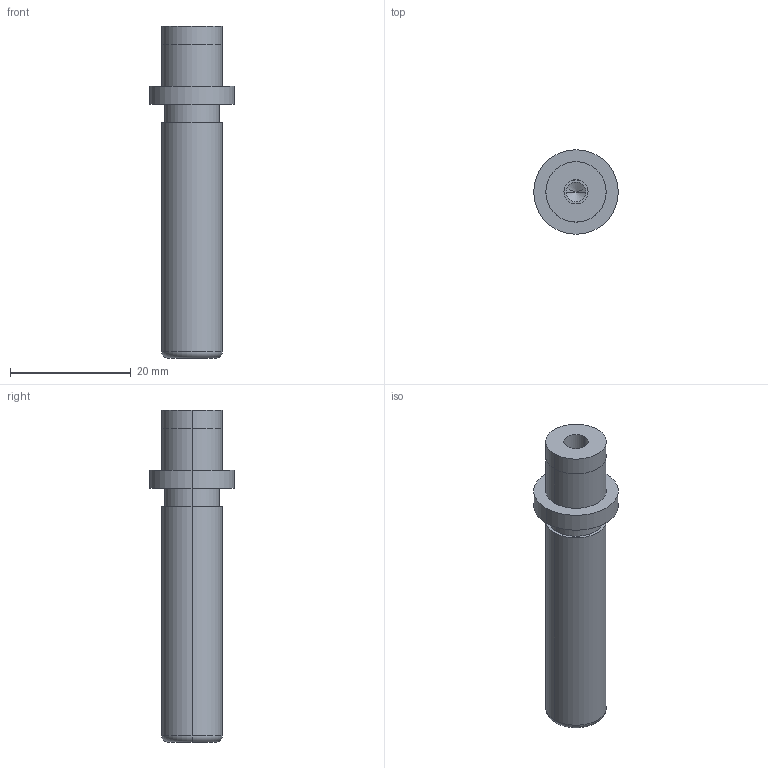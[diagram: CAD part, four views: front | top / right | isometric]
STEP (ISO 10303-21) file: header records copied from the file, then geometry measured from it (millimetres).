
FILE_DESCRIPTION(/* description */ (''),/* implementation_level */ '2;1');
FILE_NAME(/* name */ '3d_sgpw10-45_05291_r00.stp',/* time_stamp */ '2011-01-10T14:11:06+09:00',/* author */ ('MISUMI'),/* organization */ (''),/* preprocessor_version */ 'ST-DEVELOPER v11',/* originating_system */ 'UGS - NX 5.0',/* authorisation */ '');
FILE_SCHEMA (('CONFIG_CONTROL_DESIGN'));
Length unit declared in the file: millimetre
Products named in the file (1): 3d_sgpw10-45_05291_r00
Bounding box: 14 x 14 x 55 mm (x, y, z)
Volume: 4203.7 mm3; surface area: 2375.4 mm2
Topology: 1 solids, 1 shells, 31 faces, 64 edges, 38 vertices
Faces by surface type: cylinder 18, plane 7, cone 4, torus 2
Entity records: 890 total; most frequent: DIRECTION 162, CARTESIAN_POINT 130, ORIENTED_EDGE 120, AXIS2_PLACEMENT_3D 70, EDGE_CURVE 60, EDGE_LOOP 38, CIRCLE 38, VERTEX_POINT 38
